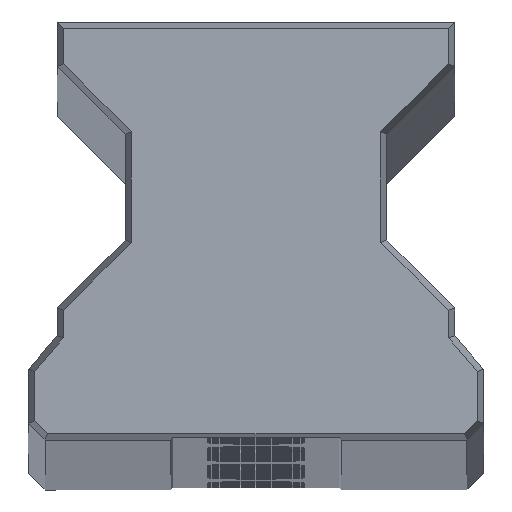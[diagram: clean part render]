
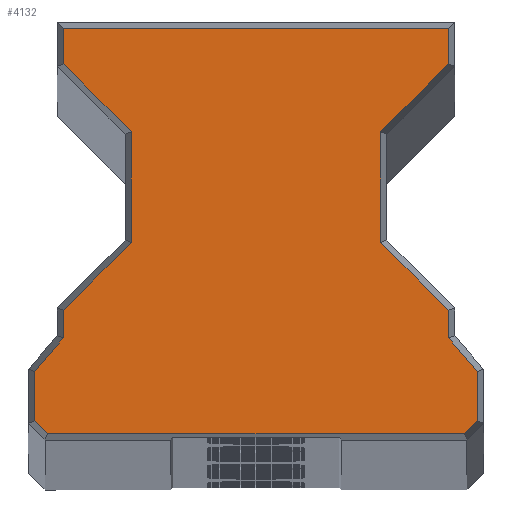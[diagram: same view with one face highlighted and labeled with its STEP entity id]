
A CAD part, top view. The second image highlights one B-rep face of the part: STEP entity #4132.
In plain terms, the highlighted planar face has unit normal (0, 0, 1).
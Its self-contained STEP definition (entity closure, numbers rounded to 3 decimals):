
#734=DIRECTION('',(1.,0.,0.));
#735=VECTOR('',#734,57.696);
#736=CARTESIAN_POINT('',(-28.848,0.85,0.));
#737=LINE('',#736,#735);
#738=DIRECTION('',(0.707,-0.707,0.));
#739=VECTOR('',#738,2.548);
#740=CARTESIAN_POINT('',(-30.65,2.652,0.));
#741=LINE('',#740,#739);
#742=DIRECTION('',(0.,-1.,0.));
#743=VECTOR('',#742,6.832);
#744=CARTESIAN_POINT('',(-30.65,9.484,0.));
#745=LINE('',#744,#743);
#746=DIRECTION('',(0.653,0.757,0.));
#747=VECTOR('',#746,6.123);
#748=CARTESIAN_POINT('',(-30.65,9.484,0.));
#749=LINE('',#748,#747);
#750=DIRECTION('',(0.,-1.,0.));
#751=VECTOR('',#750,3.809);
#752=CARTESIAN_POINT('',(-26.65,17.93,0.));
#753=LINE('',#752,#751);
#754=DIRECTION('',(-0.707,-0.707,0.));
#755=VECTOR('',#754,13.294);
#756=CARTESIAN_POINT('',(-17.25,27.33,0.));
#757=LINE('',#756,#755);
#758=DIRECTION('',(0.,-1.,0.));
#759=VECTOR('',#758,15.34);
#760=CARTESIAN_POINT('',(-17.25,42.67,0.));
#761=LINE('',#760,#759);
#762=DIRECTION('',(0.707,-0.707,0.));
#763=VECTOR('',#762,13.294);
#764=CARTESIAN_POINT('',(-26.65,52.07,0.));
#765=LINE('',#764,#763);
#766=DIRECTION('',(0.,-1.,0.));
#767=VECTOR('',#766,4.93);
#768=CARTESIAN_POINT('',(-26.65,57.,0.));
#769=LINE('',#768,#767);
#770=DIRECTION('',(-1.,0.,0.));
#771=VECTOR('',#770,53.3);
#772=CARTESIAN_POINT('',(26.65,57.,0.));
#773=LINE('',#772,#771);
#774=DIRECTION('',(0.,1.,0.));
#775=VECTOR('',#774,4.93);
#776=CARTESIAN_POINT('',(26.65,52.07,0.));
#777=LINE('',#776,#775);
#778=DIRECTION('',(-0.707,-0.707,0.));
#779=VECTOR('',#778,13.294);
#780=CARTESIAN_POINT('',(26.65,52.07,0.));
#781=LINE('',#780,#779);
#782=DIRECTION('',(0.,1.,0.));
#783=VECTOR('',#782,15.34);
#784=CARTESIAN_POINT('',(17.25,27.33,0.));
#785=LINE('',#784,#783);
#786=DIRECTION('',(-0.707,0.707,0.));
#787=VECTOR('',#786,13.294);
#788=CARTESIAN_POINT('',(26.65,17.93,0.));
#789=LINE('',#788,#787);
#790=DIRECTION('',(0.,1.,0.));
#791=VECTOR('',#790,3.809);
#792=CARTESIAN_POINT('',(26.65,14.12,0.));
#793=LINE('',#792,#791);
#794=DIRECTION('',(-0.653,0.757,0.));
#795=VECTOR('',#794,6.123);
#796=CARTESIAN_POINT('',(30.65,9.484,0.));
#797=LINE('',#796,#795);
#798=DIRECTION('',(0.,1.,0.));
#799=VECTOR('',#798,6.832);
#800=CARTESIAN_POINT('',(30.65,2.652,0.));
#801=LINE('',#800,#799);
#802=DIRECTION('',(0.707,0.707,0.));
#803=VECTOR('',#802,2.548);
#804=CARTESIAN_POINT('',(28.848,0.85,0.));
#805=LINE('',#804,#803);
#2890=CARTESIAN_POINT('',(-28.848,0.85,0.));
#2891=CARTESIAN_POINT('',(28.848,0.85,0.));
#2892=VERTEX_POINT('',#2890);
#2893=VERTEX_POINT('',#2891);
#2894=CARTESIAN_POINT('',(30.65,2.652,0.));
#2895=VERTEX_POINT('',#2894);
#2896=CARTESIAN_POINT('',(30.65,9.484,0.));
#2897=VERTEX_POINT('',#2896);
#2898=CARTESIAN_POINT('',(26.65,14.12,0.));
#2899=VERTEX_POINT('',#2898);
#2900=CARTESIAN_POINT('',(26.65,17.93,0.));
#2901=VERTEX_POINT('',#2900);
#2902=CARTESIAN_POINT('',(17.25,27.33,0.));
#2903=VERTEX_POINT('',#2902);
#2904=CARTESIAN_POINT('',(17.25,42.67,0.));
#2905=VERTEX_POINT('',#2904);
#2906=CARTESIAN_POINT('',(26.65,52.07,0.));
#2907=VERTEX_POINT('',#2906);
#2908=CARTESIAN_POINT('',(26.65,57.,0.));
#2909=VERTEX_POINT('',#2908);
#2910=CARTESIAN_POINT('',(-26.65,57.,0.));
#2911=VERTEX_POINT('',#2910);
#2912=CARTESIAN_POINT('',(-26.65,52.07,0.));
#2913=VERTEX_POINT('',#2912);
#2914=CARTESIAN_POINT('',(-17.25,42.67,0.));
#2915=VERTEX_POINT('',#2914);
#2916=CARTESIAN_POINT('',(-17.25,27.33,0.));
#2917=VERTEX_POINT('',#2916);
#2918=CARTESIAN_POINT('',(-26.65,17.93,0.));
#2919=VERTEX_POINT('',#2918);
#2920=CARTESIAN_POINT('',(-26.65,14.12,0.));
#2921=VERTEX_POINT('',#2920);
#2922=CARTESIAN_POINT('',(-30.65,9.484,0.));
#2923=VERTEX_POINT('',#2922);
#3484=CARTESIAN_POINT('',(-30.65,2.652,0.));
#3485=VERTEX_POINT('',#3484);
#4090=CARTESIAN_POINT('',(0.,0.,0.));
#4091=DIRECTION('',(0.,0.,1.));
#4092=DIRECTION('',(1.,0.,0.));
#4093=AXIS2_PLACEMENT_3D('',#4090,#4091,#4092);
#4094=PLANE('',#4093);
#4096=ORIENTED_EDGE('',*,*,#4095,.F.);
#4098=ORIENTED_EDGE('',*,*,#4097,.F.);
#4100=ORIENTED_EDGE('',*,*,#4099,.F.);
#4102=ORIENTED_EDGE('',*,*,#4101,.T.);
#4104=ORIENTED_EDGE('',*,*,#4103,.F.);
#4106=ORIENTED_EDGE('',*,*,#4105,.F.);
#4108=ORIENTED_EDGE('',*,*,#4107,.F.);
#4109=ORIENTED_EDGE('',*,*,#4080,.F.);
#4111=ORIENTED_EDGE('',*,*,#4110,.F.);
#4113=ORIENTED_EDGE('',*,*,#4112,.F.);
#4115=ORIENTED_EDGE('',*,*,#4114,.F.);
#4117=ORIENTED_EDGE('',*,*,#4116,.T.);
#4119=ORIENTED_EDGE('',*,*,#4118,.F.);
#4121=ORIENTED_EDGE('',*,*,#4120,.F.);
#4123=ORIENTED_EDGE('',*,*,#4122,.F.);
#4125=ORIENTED_EDGE('',*,*,#4124,.F.);
#4127=ORIENTED_EDGE('',*,*,#4126,.F.);
#4129=ORIENTED_EDGE('',*,*,#4128,.F.);
#4130=EDGE_LOOP('',(#4096,#4098,#4100,#4102,#4104,#4106,#4108,#4109,#4111,#4113,
#4115,#4117,#4119,#4121,#4123,#4125,#4127,#4129));
#4131=FACE_OUTER_BOUND('',#4130,.F.);
#4080=EDGE_CURVE('',#2913,#2915,#765,.T.);
#4095=EDGE_CURVE('',#2892,#2893,#737,.T.);
#4097=EDGE_CURVE('',#3485,#2892,#741,.T.);
#4099=EDGE_CURVE('',#2923,#3485,#745,.T.);
#4101=EDGE_CURVE('',#2923,#2921,#749,.T.);
#4103=EDGE_CURVE('',#2919,#2921,#753,.T.);
#4105=EDGE_CURVE('',#2917,#2919,#757,.T.);
#4107=EDGE_CURVE('',#2915,#2917,#761,.T.);
#4110=EDGE_CURVE('',#2911,#2913,#769,.T.);
#4112=EDGE_CURVE('',#2909,#2911,#773,.T.);
#4114=EDGE_CURVE('',#2907,#2909,#777,.T.);
#4116=EDGE_CURVE('',#2907,#2905,#781,.T.);
#4118=EDGE_CURVE('',#2903,#2905,#785,.T.);
#4120=EDGE_CURVE('',#2901,#2903,#789,.T.);
#4122=EDGE_CURVE('',#2899,#2901,#793,.T.);
#4124=EDGE_CURVE('',#2897,#2899,#797,.T.);
#4126=EDGE_CURVE('',#2895,#2897,#801,.T.);
#4128=EDGE_CURVE('',#2893,#2895,#805,.T.);
#4132=ADVANCED_FACE('',(#4131),#4094,.T.);
